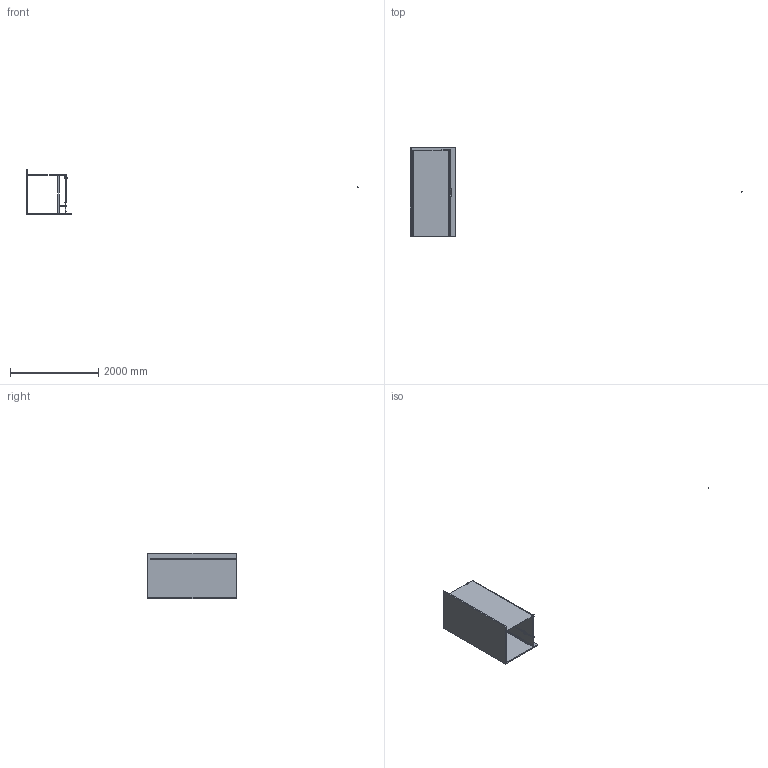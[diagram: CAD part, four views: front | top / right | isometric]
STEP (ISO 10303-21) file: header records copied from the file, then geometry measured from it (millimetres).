
FILE_DESCRIPTION((''),'2;1');
FILE_NAME('A9188_900_900_1950_6MM_ASM','2019-08-23T',('Administrator'),(''),'CREO PARAMETRIC BY PTC INC, 2014190','CREO PARAMETRIC BY PTC INC, 2014190','');
FILE_SCHEMA(('AUTOMOTIVE_DESIGN { 1 0 10303 214 1 1 1 1 }'));
Length unit declared in the file: millimetre
Products named in the file (53): PRODUCT_22785; ___1920_590_6; PRODUCT_27870; L-136_1950; L-137_1950; PRODUCT_893; PRODUCT_5529; HEX_SOCKET_SET_SCREWS_WITH_FLAT; PRODUCT_23253; ___07; PRODUCT_16386; ___865_30_10; ___150_30_10; PRODUCT_19637; 07025_ASM; ___1950_829_6; 90________; __-__2-3226; __-__1-19707; 90____1950_ASM; PRODUCT_1885; W032_600; 180________; __-__1-10531; __-__2-10691; 90____1920_ASM; ____1950_229_6; A9188_900_900_1950_6MM_1_ASM; C_PRT0001__1_; C_PRT0002__1_; C_PRT0004__1_; C_PRT0005__1_; C_PRT0006__1_; C_PRT0003__1_; C_ASM0003__ASM_1__ASM; 03009_ASM; PRT0001_9; PRT0002_3; PRT0003_3_1; PRT0003_3_2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
Assembly tree (87 placements, depth 4):
  A9188_900_900_1950_6MM_ASM
    A9188_900_900_1950_6MM_1_ASM
      PRODUCT_22785
      ___1920_590_6
      PRODUCT_27870
      L-136_1950  x2
      L-137_1950  x2
      07025_ASM
        PRODUCT_893  x4
        PRODUCT_5529  x2
        HEX_SOCKET_SET_SCREWS_WITH_FLAT  x10
        PRODUCT_23253  x2
        ___07  x4
        PRODUCT_16386
        ___865_30_10
        ___150_30_10
        PRODUCT_19637
      ___1950_829_6
      90________
      90____1950_ASM
        __-__2-3226
        __-__1-19707
      PRODUCT_1885  x2
      W032_600
      180________
      90____1920_ASM
        __-__1-10531
        __-__2-10691
      ____1950_229_6
    03009_ASM
      C_PRT0001__1_  x2
      C_PRT0002__1_
      C_PRT0004__1_
      C_ASM0003__ASM_1__ASM
        C_PRT0005__1_
        C_PRT0006__1_
        C_PRT0003__1_  x2
    ASM0001_ASM_13_ASM  x2
      PRT0001_9
      PRT0002_3
      PRT0003_3_ASM
        PRT0003_3_1
        PRT0003_3_2
      PRT0004_1
      PRT0005_1
      PRT0006_1
      PRT0007_1
      PRT0006
      PRT0001
    PRT0002
    _
    PRT0003
    PRT0004
Bounding box: 7525.83 x 2000 x 1030 mm (x, y, z)
Volume: 142463455 mm3; surface area: 17670178.8 mm2
Topology: 102 solids, 102 shells, 2793 faces, 6784 edges, 4214 vertices
Faces by surface type: plane 1085, cylinder 1031, cone 525, bspline 113, torus 22, sphere 13, extrusion 4
Entity records: 52095 total; most frequent: CARTESIAN_POINT 18820, DIRECTION 6162, ORIENTED_EDGE 5958, EDGE_CURVE 2979, AXIS2_PLACEMENT_3D 2163, VERTEX_POINT 1929, VECTOR 1836, LINE 1832
